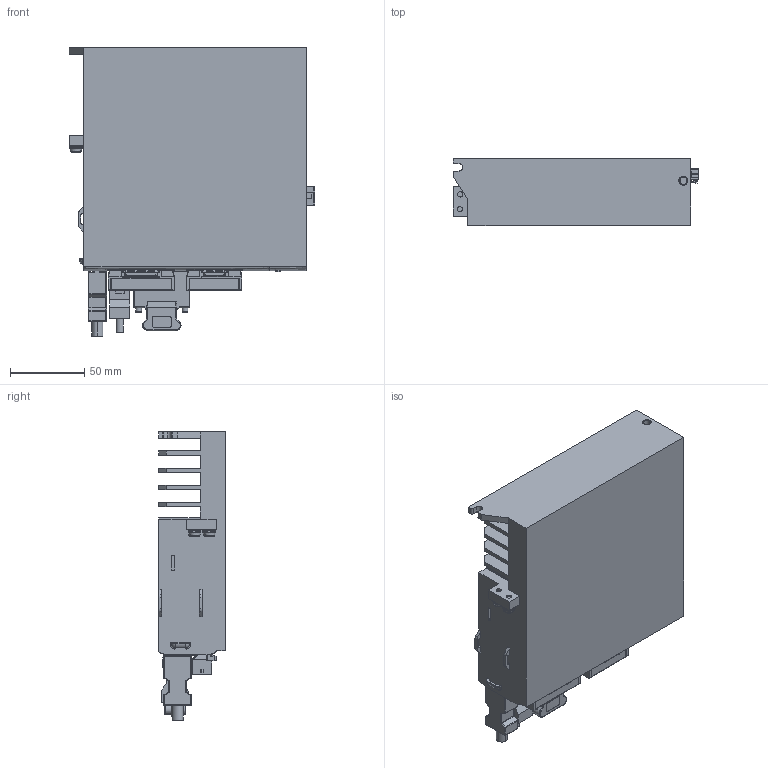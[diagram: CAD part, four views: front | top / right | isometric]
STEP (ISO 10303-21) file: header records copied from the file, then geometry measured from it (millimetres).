
FILE_DESCRIPTION (( 'STEP AP214' ), '1' );
FILE_NAME ('Ω6s-AN-A型-全能&直线-整机外形图.STEP', '2023-04-19T03:36:55', ( '' ), ( '' ), 'SwSTEP 2.0', 'SolidWorks 2014', '' );
FILE_SCHEMA (( 'AUTOMOTIVE_DESIGN' ));
Length unit declared in the file: millimetre
Products named in the file (24): plug-t3507506; JDZcoder; 26pinMDRplug; plug-t3507505; jack-t3507506; 400WK; M4-H8; STOM2X04P; Ω6s-AN-A型-全能&直线-整机外形图; jack-t3507505; MUF-PK10K-X; STOG2X4P
Assembly tree (12 placements, depth 2):
  plug-t3507506
  26pinMDRplug
  plug-t3507505
  jack-t3507506
  400WK
Bounding box: 165.5 x 45 x 194.2 mm (x, y, z)
Volume: 861104.6 mm3; surface area: 166353.4 mm2
Topology: 19 solids, 19 shells, 4384 faces, 12253 edges, 7938 vertices
Faces by surface type: plane 3431, cylinder 467, bspline 436, sphere 22, cone 16, torus 12
Entity records: 157334 total; most frequent: CARTESIAN_POINT 48112, ORIENTED_EDGE 24262, DIRECTION 19324, EDGE_CURVE 12131, LINE 10090, VECTOR 10090, VERTEX_POINT 7874, EDGE_LOOP 4653
